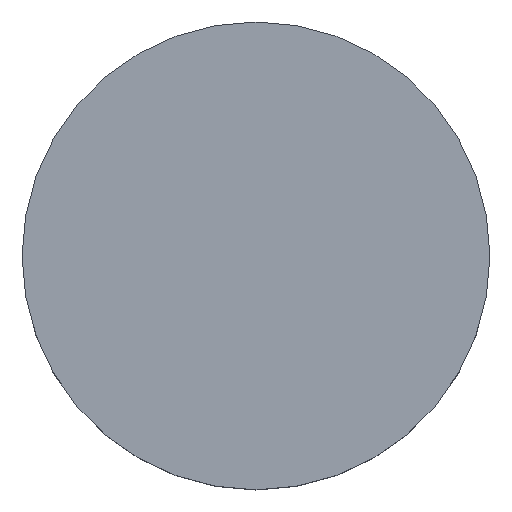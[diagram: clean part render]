
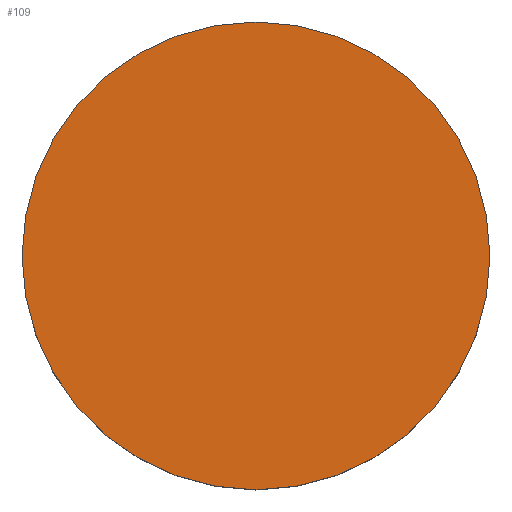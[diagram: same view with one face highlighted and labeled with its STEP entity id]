
A CAD part, top view. The second image highlights one B-rep face of the part: STEP entity #109.
In plain terms, the highlighted planar face has unit normal (0, 0, 1).
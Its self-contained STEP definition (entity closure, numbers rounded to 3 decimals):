
#24 = VERTEX_POINT('',#25);
#25 = CARTESIAN_POINT('',(55.,0.,26.));
#32 = CYLINDRICAL_SURFACE('',#33,55.);
#33 = AXIS2_PLACEMENT_3D('',#34,#35,#36);
#34 = CARTESIAN_POINT('',(0.,0.,0.));
#35 = DIRECTION('',(-0.,-0.,-1.));
#36 = DIRECTION('',(1.,0.,-0.));
#51 = EDGE_CURVE('',#24,#24,#52,.T.);
#52 = SURFACE_CURVE('',#53,(#58,#65),.PCURVE_S1.);
#53 = CIRCLE('',#54,55.);
#54 = AXIS2_PLACEMENT_3D('',#55,#56,#57);
#55 = CARTESIAN_POINT('',(0.,0.,26.));
#56 = DIRECTION('',(0.,0.,1.));
#57 = DIRECTION('',(1.,0.,-0.));
#58 = PCURVE('',#32,#59);
#59 = DEFINITIONAL_REPRESENTATION('',(#60),#64);
#60 = LINE('',#61,#62);
#61 = CARTESIAN_POINT('',(-0.,-26.));
#62 = VECTOR('',#63,1.);
#63 = DIRECTION('',(-1.,0.));
#64 = ( GEOMETRIC_REPRESENTATION_CONTEXT(2) 
PARAMETRIC_REPRESENTATION_CONTEXT() REPRESENTATION_CONTEXT('2D SPACE',''
  ) );
#65 = PCURVE('',#66,#71);
#66 = PLANE('',#67);
#67 = AXIS2_PLACEMENT_3D('',#68,#69,#70);
#68 = CARTESIAN_POINT('',(0.,0.,26.));
#69 = DIRECTION('',(0.,0.,1.));
#70 = DIRECTION('',(1.,0.,-0.));
#71 = DEFINITIONAL_REPRESENTATION('',(#72),#76);
#72 = CIRCLE('',#73,55.);
#73 = AXIS2_PLACEMENT_2D('',#74,#75);
#74 = CARTESIAN_POINT('',(0.,0.));
#75 = DIRECTION('',(1.,0.));
#76 = ( GEOMETRIC_REPRESENTATION_CONTEXT(2) 
PARAMETRIC_REPRESENTATION_CONTEXT() REPRESENTATION_CONTEXT('2D SPACE',''
  ) );
#109 = ADVANCED_FACE('',(#110),#66,.T.);
#110 = FACE_BOUND('',#111,.T.);
#111 = EDGE_LOOP('',(#112));
#112 = ORIENTED_EDGE('',*,*,#51,.T.);
